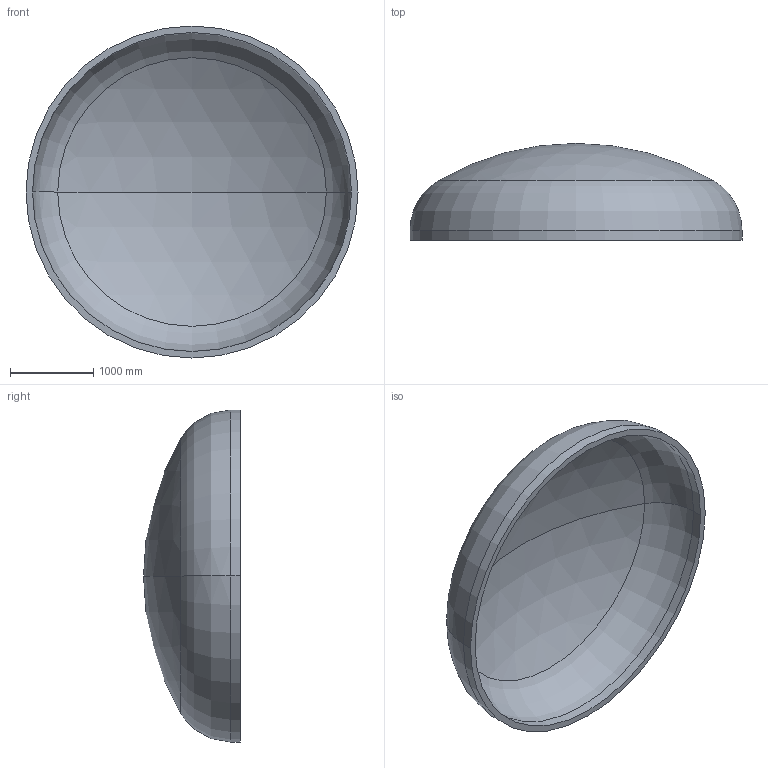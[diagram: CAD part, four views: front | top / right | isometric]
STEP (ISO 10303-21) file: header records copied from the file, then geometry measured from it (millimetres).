
FILE_DESCRIPTION (( 'STEP AP203' ), '1' );
FILE_NAME ('DIN 28013 Korbbogenform_-_Boden DIN 28013 - 4000 x 120 - I - s=78.step', '2016-07-01T22:40:20', ( '' ), ( '' ), 'SwSTEP 2.0', 'SolidWorks 2013', '' );
FILE_SCHEMA (( 'CONFIG_CONTROL_DESIGN' ));
Length unit declared in the file: millimetre
Products named in the file (1): DIN 28013 Korbbogenform_-_Boden DIN 28013 - 4000 x 120 - I - s=78
Bounding box: 4000 x 1167.76 x 4000 mm (x, y, z)
Volume: 1438013669.2 mm3; surface area: 37845938.2 mm2
Topology: 1 solids, 1 shells, 13 faces, 24 edges, 14 vertices
Faces by surface type: torus 4, cylinder 4, sphere 4, plane 1
Entity records: 407 total; most frequent: DIRECTION 72, CARTESIAN_POINT 52, ORIENTED_EDGE 48, AXIS2_PLACEMENT_3D 34, EDGE_CURVE 24, CIRCLE 20, EDGE_LOOP 14, VERTEX_POINT 14
